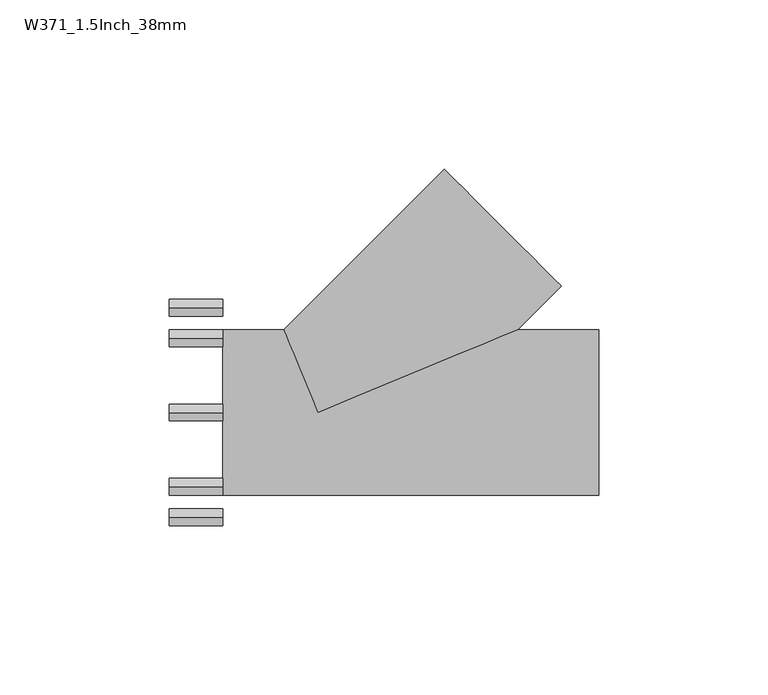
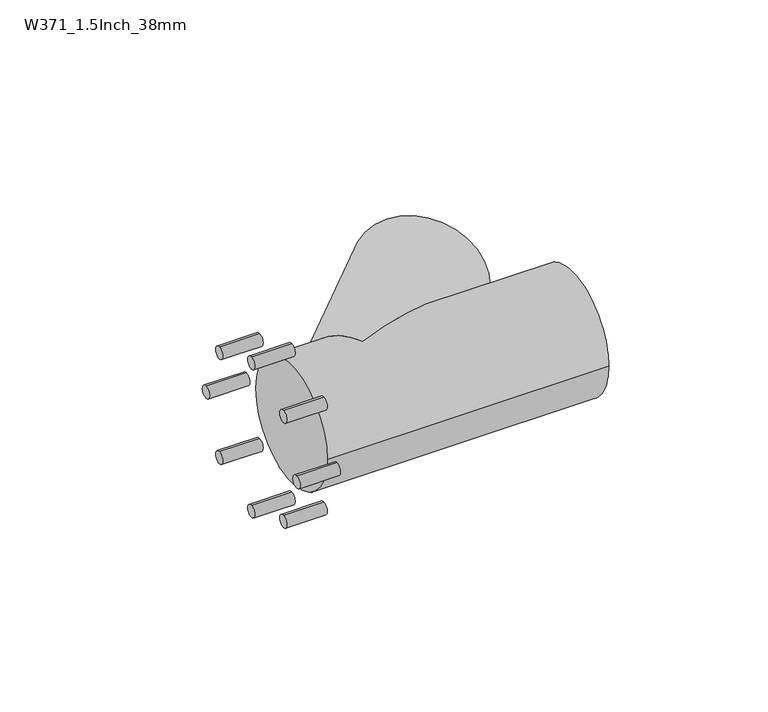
"""IFC4 building model written with IfcOpenShell, lengths in millimetres: pipe fitting geometry, Durapipe_PipeFitting_VulcatheneMechanical_SingleWye_W37 : W371_1.5Inch_38mm."""

from ifc_helpers import new_model, si_unit, point, frame, frame_2d, origin, place, context, project, spatial, circle_curve, ellipse_curve, trimmed, segment, composite_curve, outline, extrude, source, transform, mapped, element, save
from ifc_brep_helpers import plane_surface, cylinder_surface, advanced_brep


def w371_1_5inch_38mm_3170ab44(model_context):
    return source(origin(), model_context, "Body", "SolidModel", [
        extrude(outline(composite_curve([segment(trimmed(circle_curve(frame_2d((-31.0, 0.0)), 2.5), [point((-31.0, -2.5))], [point((-31.0, 2.5))], False, "CARTESIAN"), True, "CONTINUOUS"), segment(trimmed(circle_curve(frame_2d((-31.0, 0.0)), 2.5), [point((-31.0, 2.5))], [point((-31.0, -2.5))], False, "CARTESIAN"), True, "CONTINUOUS")], self_intersect=False)), frame((-44.0, 0.0, 0.0), z_axis=(1.0, 0.0, 0.0), x_axis=(0.0, 1.0, 0.0)), (0.0, 0.0, 1.0), 15.9),
        extrude(outline(composite_curve([segment(trimmed(circle_curve(frame_2d((-21.9203102, 21.9203102)), 2.5), [point((-21.9203102, 19.4203102))], [point((-21.9203102, 24.4203102))], False, "CARTESIAN"), True, "CONTINUOUS"), segment(trimmed(circle_curve(frame_2d((-21.9203102, 21.9203102)), 2.5), [point((-21.9203102, 24.4203102))], [point((-21.9203102, 19.4203102))], False, "CARTESIAN"), True, "CONTINUOUS")], self_intersect=False)), frame((-44.0, 0.0, 0.0), z_axis=(1.0, 0.0, 0.0), x_axis=(0.0, 1.0, 0.0)), (0.0, 0.0, 1.0), 15.9),
        extrude(outline(composite_curve([segment(trimmed(circle_curve(frame_2d((0.0, 31.0)), 2.5), [point((0.0, 28.5))], [point((0.0, 33.5))], False, "CARTESIAN"), True, "CONTINUOUS"), segment(trimmed(circle_curve(frame_2d((0.0, 31.0)), 2.5), [point((0.0, 33.5))], [point((0.0, 28.5))], False, "CARTESIAN"), True, "CONTINUOUS")], self_intersect=False)), frame((-44.0, 0.0, 0.0), z_axis=(1.0, 0.0, 0.0), x_axis=(0.0, 1.0, 0.0)), (0.0, 0.0, 1.0), 15.9),
        extrude(outline(composite_curve([segment(trimmed(circle_curve(frame_2d((21.9203102, 21.9203102)), 2.5), [point((21.9203102, 19.4203102))], [point((21.9203102, 24.4203102))], False, "CARTESIAN"), True, "CONTINUOUS"), segment(trimmed(circle_curve(frame_2d((21.9203102, 21.9203102)), 2.5), [point((21.9203102, 24.4203102))], [point((21.9203102, 19.4203102))], False, "CARTESIAN"), True, "CONTINUOUS")], self_intersect=False)), frame((-44.0, 0.0, 0.0), z_axis=(1.0, 0.0, 0.0), x_axis=(0.0, 1.0, 0.0)), (0.0, 0.0, 1.0), 15.9),
        extrude(outline(composite_curve([segment(trimmed(circle_curve(frame_2d((31.0, 0.0)), 2.5), [point((31.0, -2.5))], [point((31.0, 2.5))], False, "CARTESIAN"), True, "CONTINUOUS"), segment(trimmed(circle_curve(frame_2d((31.0, 0.0)), 2.5), [point((31.0, 2.5))], [point((31.0, -2.5))], False, "CARTESIAN"), True, "CONTINUOUS")], self_intersect=False)), frame((-44.0, 0.0, 0.0), z_axis=(1.0, 0.0, 0.0), x_axis=(0.0, 1.0, 0.0)), (0.0, 0.0, 1.0), 15.9),
        extrude(outline(composite_curve([segment(trimmed(circle_curve(frame_2d((21.9203102, -21.9203102)), 2.5), [point((21.9203102, -24.4203102))], [point((21.9203102, -19.4203102))], False, "CARTESIAN"), True, "CONTINUOUS"), segment(trimmed(circle_curve(frame_2d((21.9203102, -21.9203102)), 2.5), [point((21.9203102, -19.4203102))], [point((21.9203102, -24.4203102))], False, "CARTESIAN"), True, "CONTINUOUS")], self_intersect=False)), frame((-44.0, 0.0, 0.0), z_axis=(1.0, 0.0, 0.0), x_axis=(0.0, 1.0, 0.0)), (0.0, 0.0, 1.0), 15.9),
        extrude(outline(composite_curve([segment(trimmed(circle_curve(frame_2d((0.0, -31.0)), 2.5), [point((0.0, -33.5))], [point((0.0, -28.5))], False, "CARTESIAN"), True, "CONTINUOUS"), segment(trimmed(circle_curve(frame_2d((0.0, -31.0)), 2.5), [point((0.0, -28.5))], [point((0.0, -33.5))], False, "CARTESIAN"), True, "CONTINUOUS")], self_intersect=False)), frame((-44.0, 0.0, 0.0), z_axis=(1.0, 0.0, 0.0), x_axis=(0.0, 1.0, 0.0)), (0.0, 0.0, 1.0), 15.9),
        extrude(outline(composite_curve([segment(trimmed(circle_curve(frame_2d((-21.9203102, -21.9203102)), 2.5), [point((-21.9203102, -24.4203102))], [point((-21.9203102, -19.4203102))], False, "CARTESIAN"), True, "CONTINUOUS"), segment(trimmed(circle_curve(frame_2d((-21.9203102, -21.9203102)), 2.5), [point((-21.9203102, -19.4203102))], [point((-21.9203102, -24.4203102))], False, "CARTESIAN"), True, "CONTINUOUS")], self_intersect=False)), frame((-44.0, 0.0, 0.0), z_axis=(1.0, 0.0, 0.0), x_axis=(0.0, 1.0, 0.0)), (0.0, 0.0, 1.0), 15.9),
        advanced_brep(
        [(-28.1, 24.5, 0.0), (-28.1, -24.5, 0.0), (83.1, 24.5, 0.0), (83.1, -24.5, 0.0), (59.1482323, 24.5, 0.0), (0.0, 0.0, 24.5), (-10.1482323, 24.5, 0.0), (0.0, 0.0, -24.5), (37.335238, 71.9834703, 0.0), (71.9834703, 37.335238, 0.0)],
        [
            (0, 1, circle_curve(frame((-28.1, 0.0, 0.0), z_axis=(-1.0, 0.0, 0.0), x_axis=(0.0, -1.0, 0.0)), 24.5)),
            (1, 0, circle_curve(frame((-28.1, 0.0, 0.0), z_axis=(-1.0, 0.0, 0.0), x_axis=(0.0, -1.0, 0.0)), 24.5)),
            (2, 3, circle_curve(frame((83.1, 0.0, 0.0), z_axis=(1.0, 0.0, 0.0), x_axis=(0.0, -1.0, 0.0)), 24.5)),
            (3, 2, circle_curve(frame((83.1, 0.0, 0.0), z_axis=(1.0, 0.0, 0.0), x_axis=(0.0, -1.0, 0.0)), 24.5)),
            (1, 3),
            (2, 4),
            (4, 5, ellipse_curve(frame((0.0, 0.0, 0.0), z_axis=(0.3826834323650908, -0.9238795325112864, 0.0), x_axis=(-0.9238795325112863, -0.38268343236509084, 0.0)), 64.0215853, 24.5)),
            (5, 6, ellipse_curve(frame((0.0, 0.0, 0.0), z_axis=(-0.9238795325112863, -0.3826834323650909, 0.0), x_axis=(-0.3826834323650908, 0.9238795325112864, 0.0)), 26.5186089, 24.5)),
            (6, 0),
            (6, 7, ellipse_curve(frame((0.0, 0.0, 0.0), z_axis=(-0.9238795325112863, -0.3826834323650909, 0.0), x_axis=(-0.3826834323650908, 0.9238795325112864, 0.0)), 26.5186089, 24.5)),
            (7, 4, ellipse_curve(frame((0.0, 0.0, 0.0), z_axis=(0.3826834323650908, -0.9238795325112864, 0.0), x_axis=(-0.9238795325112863, -0.38268343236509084, 0.0)), 64.0215853, 24.5)),
            (8, 9, circle_curve(frame((54.6593542, 54.6593542, 0.0), z_axis=(0.7071067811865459, 0.7071067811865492, 0.0), x_axis=(0.7071067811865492, -0.7071067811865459, 0.0)), 24.5)),
            (9, 8, circle_curve(frame((54.6593542, 54.6593542, 0.0), z_axis=(0.7071067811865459, 0.7071067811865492, 0.0), x_axis=(0.7071067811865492, -0.7071067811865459, 0.0)), 24.5)),
            (8, 6),
            (4, 9),
        ],
        [
            plane_surface(frame((-28.1, 0.0, 0.0), z_axis=(-1.0, 0.0, 0.0), x_axis=(0.0, 0.0, 1.0))),
            plane_surface(frame((83.1, 0.0, 0.0), z_axis=(1.0, 0.0, 0.0), x_axis=(0.0, 0.0, 1.0))),
            cylinder_surface(frame((-28.1, 0.0, 0.0), z_axis=(-1.0, 0.0, 0.0), x_axis=(0.0, -1.0, 0.0)), 24.5),
            plane_surface(frame((54.6593542, 54.6593542, 0.0), z_axis=(0.7071067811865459, 0.7071067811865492, 0.0), x_axis=(0.0, 0.0, 1.0))),
            cylinder_surface(frame((0.0, 0.0, 0.0), z_axis=(-0.7071067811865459, -0.7071067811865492, 0.0), x_axis=(0.7071067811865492, -0.7071067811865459, 0.0)), 24.5),
        ],
        [
            (0, [[1, 2]]),
            (1, [[3, 4]]),
            (2, [[5, -3, 6, 7, 8, 9, -2]]),
            (2, [[-9, 10, 11, -6, -4, -5, -1]]),
            (3, [[12, 13]]),
            (4, [[14, -8, -7, 15, -12]]),
            (4, [[-15, -11, -10, -14, -13]]),
        ],
    ),
    ])


if __name__ == "__main__":
    model = new_model("IFC4")
    model_context = context("Model", 3, world=origin())
    ifc_project = project(units=[si_unit("LENGTHUNIT", "METRE", prefix="MILLI")], contexts=[model_context])
    site = spatial("IfcSite", under=ifc_project)
    building = spatial("IfcBuilding", under=site)
    placement = place(None, origin())
    w371_1_5inch_38mm_shape = w371_1_5inch_38mm_3170ab44(model_context)
    element("IfcPipeFitting", 1, ObjectType="Durapipe_PipeFitting_VulcatheneMechanical_SingleWye_W37 : W371_1.5Inch_38mm", at=placement, inside=building, context=model_context, shape_type="MappedRepresentation", body=[
        mapped(w371_1_5inch_38mm_shape, transform((0.0, 0.0, 0.0), x_axis=(1.0, 0.0, 0.0), y_axis=(0.0, 1.0, 0.0), z_axis=(0.0, 0.0, 1.0))),
    ])
    save(model, "model.ifc")
